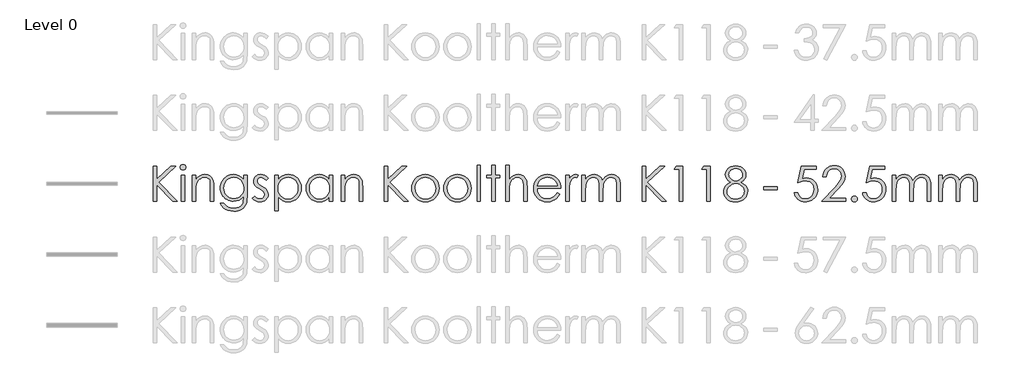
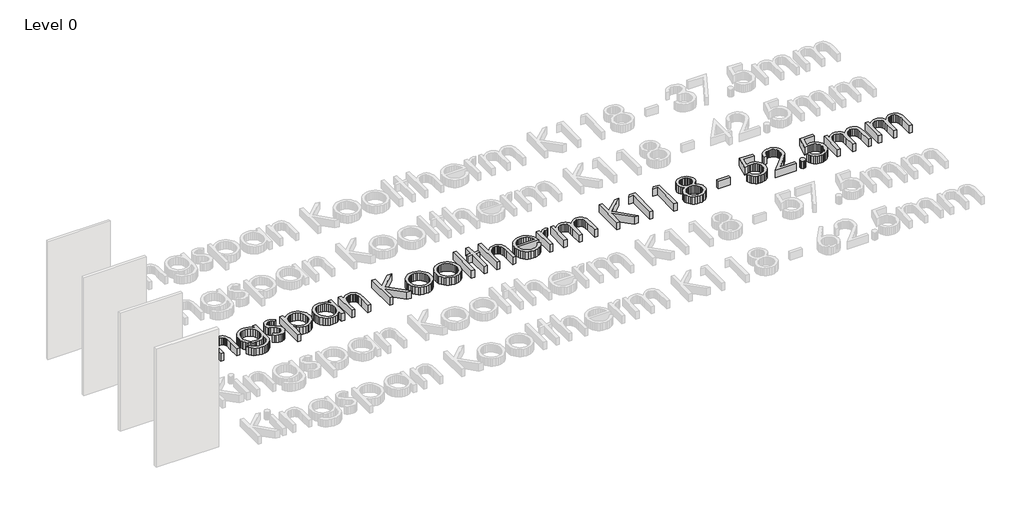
# One storey, part 6 of 8: 1 proxy.
"""IFC4 building model written with IfcOpenShell, lengths in millimetres."""

from ifc_helpers import new_model, si_unit, origin, origin_with_axes, place, context, project, spatial, polyline, outline, extrude, element, save

model = new_model("IFC4")

# Units and contexts
model_context = context("Model", 3, world=origin())
ifc_project = project(units=[si_unit("LENGTHUNIT", "METRE", prefix="MILLI")], contexts=[model_context])

# Site, building, storey
site = spatial("IfcSite", under=ifc_project)
building = spatial("IfcBuilding", under=site)
storey = spatial("IfcBuildingStorey", under=building, Name="Level 0", Elevation=0.0)

# Proxy
placement = place(None, origin())
element("IfcBuildingElementProxy", 1, Name="600mm KI_CenturyGothic", ObjectType="600mm KI_CenturyGothic", at=placement, inside=storey, context=model_context, shape_type="SweptSolid", body=[
    extrude(outline(polyline([(-3852.2663848, 3500.8965983), (-3792.944575, 3500.8965983), (-3792.944575, 3281.683973), (-3555.1938841, 3500.8965983), (-3471.6181051, 3500.8965983), (-3760.9664119, 3233.9484541), (-3441.9572002, 2907.6785001), (-3520.8984627, 2907.6785001), (-3792.944575, 3185.9039675), (-3792.944575, 2907.6785001), (-3852.2663848, 2907.6785001), (-3852.2663848, 3500.8965983)])), origin_with_axes(), (0.0, 0.0, 1.0), 150.0),
    extrude(outline(polyline([(-3348.1854852, 3530.5575033), (-3329.145347, 3527.2747208), (-3313.1176445, 3517.4263735), (-3302.226531, 3502.9821307), (-3298.5961598, 3485.911662), (-3302.226531, 3469.0729191), (-3313.1176445, 3454.7059183), (-3329.145347, 3444.857571), (-3348.1854852, 3441.5747885), (-3366.9938975, 3444.857571), (-3382.9443581, 3454.7059183), (-3393.8354717, 3469.0729191), (-3397.4658428, 3485.911662), (-3393.8354717, 3502.9821307), (-3382.9443581, 3517.4263735), (-3366.9938975, 3527.2747208), (-3348.1854852, 3530.5575033)])), origin_with_axes(), (0.0, 0.0, 1.0), 150.0),
    extrude(outline(polyline([(-3377.6919062, 3352.5920738), (-3318.3700964, 3352.5920738), (-3318.3700964, 2907.6785001), (-3377.6919062, 2907.6785001), (-3377.6919062, 3352.5920738)])), origin_with_axes(), (0.0, 0.0, 1.0), 150.0),
    extrude(outline(polyline([(-3189.8395084, 3352.5920738), (-3130.5176986, 3352.5920738), (-3130.5176986, 3273.4963274), (-3096.9946967, 3313.0055796), (-3060.0730495, 3340.696815), (-3019.7141359, 3357.0334853), (-2975.879335, 3362.4790421), (-2953.4357238, 3360.9004099), (-2932.2955704, 3356.1645135), (-2912.4588747, 3348.2713528), (-2893.9256368, 3337.2209277), (-2877.212412, 3323.4960006), (-2862.835756, 3307.5793333), (-2841.0921499, 3269.1707787), (-2833.6238199, 3244.7912914), (-2828.2892984, 3214.4448643), (-2824.0216812, 3135.8511905), (-2824.0216812, 2907.6785001), (-2883.343491, 2907.6785001), (-2883.343491, 3120.8662542), (-2883.343491, 3223.907002), (-2884.7290183, 3244.7043943), (-2889.8125035, 3262.7596977), (-2898.2849788, 3278.0729123), (-2910.1464442, 3290.644038), (-2924.7403432, 3300.4441091), (-2941.4101193, 3307.4441599), (-2980.977303, 3313.0442006), (-3005.3471351, 3310.8862539), (-3028.4038541, 3304.4124138), (-3050.1474602, 3293.6226803), (-3070.5779533, 3278.5170534), (-3088.6622225, 3260.2348518), (-3103.3671568, 3239.915394), (-3114.6927562, 3217.55868), (-3122.6390208, 3193.1647099), (-3128.5480292, 3146.0857475), (-3130.5176986, 3071.5858965), (-3130.5176986, 2907.6785001), (-3189.8395084, 2907.6785001), (-3189.8395084, 3352.5920738)])), origin_with_axes(), (0.0, 0.0, 1.0), 150.0),
    extrude(outline(polyline([(-2319.7862977, 3352.5920738), (-2260.4644879, 3352.5920738), (-2260.4644879, 3001.604699), (-2264.5196897, 2921.3503235), (-2269.588692, 2890.5500999), (-2276.6852953, 2865.9678526), (-2289.9371156, 2837.3545415), (-2307.2924139, 2812.2267729), (-2328.7511904, 2790.5845469), (-2354.3134448, 2772.4278634), (-2383.3226209, 2758.0656902), (-2415.122162, 2747.8069951), (-2449.7120682, 2741.651778), (-2487.0923395, 2739.6000389), (-2541.0458345, 2743.6166198), (-2589.206184, 2755.6663624), (-2630.260275, 2774.4940853), (-2662.8949946, 2798.8446068), (-2690.2000204, 2832.1938144), (-2715.2650299, 2878.0175952), (-2655.94322, 2878.0175952), (-2642.4355358, 2856.848476), (-2627.0933555, 2838.6048954), (-2609.9166791, 2823.2868532), (-2590.9055067, 2810.8943494), (-2569.7894914, 2801.3308318), (-2546.2982864, 2794.4997477), (-2492.1903075, 2789.0348805), (-2438.5071593, 2794.3645743), (-2415.083541, 2801.0266916), (-2393.93856, 2810.3536559), (-2359.6624492, 2834.3952097), (-2336.8567664, 2863.8823202), (-2329.3884364, 2882.5217658), (-2324.0539149, 2906.2302137), (-2319.7862977, 2968.8541165), (-2319.7862977, 2991.5632468), (-2354.757586, 2955.7809182), (-2396.6420279, 2929.3834852), (-2443.392712, 2913.1047464), (-2492.9627269, 2907.6785001), (-2522.4063889, 2909.5757553), (-2550.9521133, 2915.2675207), (-2578.5999001, 2924.7537964), (-2605.3497494, 2938.0345825), (-2630.1540674, 2954.5257366), (-2651.9652601, 2973.6431168), (-2670.7833277, 2995.3867228), (-2686.6082702, 3019.7565549), (-2699.1456025, 3046.0719183), (-2708.1008399, 3073.6521184), (-2713.4739824, 3102.4971553), (-2715.2650299, 3132.607029), (-2713.3967404, 3162.8955247), (-2707.7918722, 3192.1219437), (-2698.4504251, 3220.286286), (-2685.3723991, 3247.3885517), (-2668.9971079, 3272.5742517), (-2649.7638648, 3294.9888971), (-2627.67267, 3314.632488), (-2602.7235235, 3331.5050242), (-2575.9833294, 3345.056157), (-2548.5189922, 3354.7355376), (-2520.3305117, 3360.543166), (-2491.4178881, 3362.4790421), (-2444.5320306, 3357.5355579), (-2400.8903346, 3342.7051055), (-2359.6045177, 3316.1338782), (-2319.7862977, 3275.9680694), (-2319.7862977, 3352.5920738)]), holes=[polyline([(-2484.1571458, 3313.0442006), (-2529.0154023, 3307.0193293), (-2570.5908765, 3288.9447153), (-2606.2187212, 3260.2300242), (-2633.2340897, 3222.2849212), (-2650.2659375, 3178.0059792), (-2655.94322, 3130.2897708), (-2653.0080263, 3094.3770964), (-2644.2024452, 3061.7182387), (-2629.5264766, 3032.3131977), (-2608.9801206, 3006.1619734), (-2583.7606272, 2984.703197), (-2555.0652466, 2969.3754996), (-2522.8939786, 2960.1788811), (-2487.2468234, 2957.1133416), (-2451.3244937, 2960.154743), (-2419.1001219, 2969.2789472), (-2390.573708, 2984.4859541), (-2365.7452519, 3005.7757637), (-2345.6382095, 3032.0187128), (-2331.2760363, 3062.0851379), (-2322.6587323, 3095.975039), (-2319.7862977, 3133.6884162), (-2325.0773706, 3182.3894593), (-2340.9505892, 3225.6063246), (-2366.4983608, 3261.8327944), (-2400.8130926, 3289.5626508), (-2440.9982119, 3307.1738131), (-2484.1571458, 3313.0442006)])]), origin_with_axes(), (0.0, 0.0, 1.0), 150.0),
    extrude(outline(polyline([(-1904.5336289, 3301.3034257), (-1940.9918246, 3263.609359), (-1962.9575012, 3285.2371022), (-1984.6721416, 3300.6854902), (-2006.1357456, 3309.954523), (-2027.3483133, 3313.0442006), (-2052.181597, 3308.3710632), (-2073.2300256, 3294.3516511), (-2087.5970264, 3274.1142629), (-2092.3860267, 3250.787197), (-2088.4466878, 3229.2366958), (-2076.628671, 3208.7675817), (-2052.0657341, 3186.599145), (-2010.2006027, 3160.877579), (-1958.3326401, 3128.0111336), (-1939.8428507, 3112.1861912), (-1926.315856, 3096.7667689), (-1909.9791857, 3064.0934284), (-1904.5336289, 3027.5579908), (-1906.9474396, 3001.4115941), (-1914.1888714, 2977.3507299), (-1926.2579245, 2955.375398), (-1943.1545989, 2935.4855985), (-1963.6719892, 2918.9944443), (-1986.6031901, 2907.2150485), (-2011.9482016, 2900.147411), (-2039.7070237, 2897.7915318), (-2077.4397114, 2901.6729393), (-2113.3958344, 2913.3171617), (-2145.4512394, 2931.7972958), (-2171.4817731, 2956.1864383), (-2135.7959969, 2996.6612148), (-2114.0041146, 2975.0334717), (-2091.5749863, 2959.5850837), (-2068.5086121, 2950.3160509), (-2044.8049918, 2947.2263733), (-2013.637869, 2952.8650349), (-1987.4914724, 2969.7810198), (-1969.7644472, 2994.3439566), (-1963.8554388, 3022.9234744), (-1967.7561567, 3046.7139919), (-1979.4583106, 3067.7237995), (-2005.0253927, 3089.4287846), (-2050.2119275, 3116.2317378), (-2099.762632, 3146.8967879), (-2117.441381, 3162.0555186), (-2130.3890611, 3177.0983864), (-2146.3781427, 3209.2310334), (-2151.7078365, 3245.689229), (-2149.5305794, 3269.7356104), (-2142.9988078, 3291.6674937), (-2132.1125219, 3311.4848789), (-2116.8717217, 3329.187766), (-2098.309518, 3343.7526993), (-2077.4590218, 3354.1562231), (-2054.3202332, 3360.3983373), (-2028.8931521, 3362.4790421), (-1997.9481, 3358.6555661), (-1966.9064954, 3347.185138), (-1935.7683384, 3328.0677579), (-1904.5336289, 3301.3034257)])), origin_with_axes(), (0.0, 0.0, 1.0), 150.0),
    extrude(outline(polyline([(-1795.7769776, 3352.5920738), (-1736.4551678, 3352.5920738), (-1736.4551678, 3271.4880369), (-1700.9238754, 3311.7310876), (-1660.4490989, 3340.0788795), (-1614.9922173, 3356.8790014), (-1564.5146096, 3362.4790421), (-1520.0618732, 3358.2403906), (-1478.9305402, 3345.5244363), (-1441.1206107, 3324.331179), (-1406.6320845, 3294.6606189), (-1377.9077381, 3259.0231189), (-1357.3903478, 3219.929042), (-1345.0799137, 3177.3783884), (-1340.9764356, 3131.371158), (-1345.0412927, 3084.4708176), (-1357.235864, 3041.2491246), (-1377.5601494, 3001.706079), (-1406.014149, 2965.8416808), (-1440.2130179, 2936.0697406), (-1477.7719111, 2914.8040691), (-1518.6908288, 2902.0446661), (-1562.9697708, 2897.7915318), (-1612.6170277, 2903.256399), (-1658.0545988, 2919.6510008), (-1699.3211052, 2946.8980951), (-1736.4551678, 2984.92044), (-1736.4551678, 2749.4870072), (-1795.7769776, 2749.4870072), (-1795.7769776, 3352.5920738)]), holes=[polyline([(-1568.5311905, 3313.0442006), (-1602.5852307, 3309.7469353), (-1633.8392507, 3299.8551393), (-1662.2932503, 3283.3688128), (-1687.9472295, 3260.2879556), (-1709.1694525, 3232.3022353), (-1724.3281832, 3201.1013192), (-1733.4234216, 3166.6852074), (-1736.4551678, 3129.0538998), (-1731.048232, 3080.1983728), (-1714.8274246, 3036.5180558), (-1688.5265441, 2999.6736505), (-1652.8793888, 2971.3258586), (-1611.4390881, 2953.2512446), (-1567.7587711, 2947.2263733), (-1525.0632888, 2953.2898656), (-1485.0326535, 2971.4803424), (-1450.2544701, 3000.5812433), (-1423.3163435, 3039.3760076), (-1406.05277, 3084.0411593), (-1400.2982454, 3130.7532225), (-1405.9948385, 3177.6970114), (-1423.0846177, 3222.1304373), (-1449.8103289, 3260.4810605), (-1484.414718, 3289.1764411), (-1524.7157001, 3307.0772607), (-1568.5311905, 3313.0442006)])]), origin_with_axes(), (0.0, 0.0, 1.0), 150.0),
    extrude(outline(polyline([(-807.0801472, 3352.5920738), (-807.0801472, 2907.6785001), (-866.401957, 2907.6785001), (-866.401957, 2983.5300851), (-903.4780882, 2945.6815345), (-944.8797679, 2918.9558233), (-990.4525125, 2903.0826047), (-1040.0418379, 2897.7915318), (-1084.3159523, 2902.0446661), (-1125.2203871, 2914.8040691), (-1162.7551422, 2936.0697406), (-1196.9202178, 2965.8416808), (-1225.340424, 3001.706079), (-1245.6405713, 3041.2491246), (-1257.8206597, 3084.4708176), (-1261.8806892, 3131.371158), (-1257.7820388, 3177.3783884), (-1245.4860875, 3219.929042), (-1224.9928353, 3259.0231189), (-1196.3022822, 3294.6606189), (-1161.8475494, 3324.331179), (-1124.061758, 3345.5244363), (-1082.9449079, 3358.2403906), (-1038.4969991, 3362.4790421), (-987.7490446, 3356.8790014), (-942.0990581, 3340.0788795), (-921.2051134, 3327.3918909), (-901.6242816, 3311.7310876), (-866.401957, 3271.4880369), (-866.401957, 3352.5920738), (-807.0801472, 3352.5920738)]), holes=[polyline([(-1034.3259343, 3313.0442006), (-1078.1414247, 3307.0772607), (-1118.4424068, 3289.1764411), (-1153.0467959, 3260.4810605), (-1179.7725071, 3222.1304373), (-1196.8622863, 3177.6970114), (-1202.5588794, 3130.7532225), (-1196.8043548, 3084.0411593), (-1179.5407813, 3039.3760076), (-1152.6026548, 3000.5812433), (-1117.8244713, 2971.4803424), (-1077.6779731, 2953.2898656), (-1034.6349021, 2947.2263733), (-991.0125165, 2953.2512446), (-949.7460102, 2971.3258586), (-914.2726493, 2999.6736505), (-888.0297002, 3036.5180558), (-871.8088928, 3080.1983728), (-866.401957, 3129.0538998), (-869.4337032, 3166.6852074), (-878.5289416, 3201.1013192), (-893.6876723, 3232.3022353), (-914.9098953, 3260.2879556), (-940.5638746, 3283.3688128), (-969.0178742, 3299.8551393), (-1000.2718941, 3309.7469353), (-1034.3259343, 3313.0442006)])]), origin_with_axes(), (0.0, 0.0, 1.0), 150.0),
    extrude(outline(polyline([(-668.662591, 3352.5920738), (-609.3407811, 3352.5920738), (-609.3407811, 3273.4963274), (-575.8177792, 3313.0055796), (-538.896132, 3340.696815), (-498.5372184, 3357.0334853), (-454.7024175, 3362.4790421), (-432.2588064, 3360.9004099), (-411.1186529, 3356.1645135), (-391.2819572, 3348.2713528), (-372.7487193, 3337.2209277), (-356.0354946, 3323.4960006), (-341.6588385, 3307.5793333), (-319.9152324, 3269.1707787), (-312.4469024, 3244.7912914), (-307.1123809, 3214.4448643), (-302.8447637, 3135.8511905), (-302.8447637, 2907.6785001), (-362.1665735, 2907.6785001), (-362.1665735, 3120.8662542), (-362.1665735, 3223.907002), (-363.5521008, 3244.7043943), (-368.635586, 3262.7596977), (-377.1080613, 3278.0729123), (-388.9695267, 3290.644038), (-403.5634257, 3300.4441091), (-420.2332018, 3307.4441599), (-459.8003855, 3313.0442006), (-484.1702176, 3310.8862539), (-507.2269366, 3304.4124138), (-528.9705427, 3293.6226803), (-549.4010358, 3278.5170534), (-567.485305, 3260.2348518), (-582.1902393, 3239.915394), (-593.5158387, 3217.55868), (-601.4621033, 3193.1647099), (-607.3711117, 3146.0857475), (-609.3407811, 3071.5858965), (-609.3407811, 2907.6785001), (-668.662591, 2907.6785001), (-668.662591, 3352.5920738)])), origin_with_axes(), (0.0, 0.0, 1.0), 150.0),
    extrude(outline(polyline([(62.9730635, 3500.8965983), (122.2948734, 3500.8965983), (122.2948734, 3281.683973), (360.0455643, 3500.8965983), (443.6213432, 3500.8965983), (154.2730365, 3233.9484541), (473.2822481, 2907.6785001), (394.3409856, 2907.6785001), (122.2948734, 3185.9039675), (122.2948734, 2907.6785001), (62.9730635, 2907.6785001), (62.9730635, 3500.8965983)])), origin_with_axes(), (0.0, 0.0, 1.0), 150.0),
    extrude(outline(polyline([(760.1588128, 3362.4790421), (809.4681362, 3357.8541809), (854.3553585, 3343.9795975), (894.8204798, 3320.8552917), (930.8635, 3288.4812637), (957.7630055, 3253.2492839), (976.9769381, 3214.908316), (988.5052976, 3173.45836), (992.3480841, 3128.8994159), (988.283227, 3084.0846079), (976.0886558, 3042.1760279), (955.7643703, 3003.1736759), (927.3103707, 2967.0775519), (892.4742558, 2936.7649181), (853.0036246, 2915.1130368), (808.8984769, 2902.1219081), (760.1588128, 2897.7915318), (711.2839754, 2902.1219081), (667.0822753, 2915.1130368), (627.5537126, 2936.7649181), (592.6982872, 2967.0775519), (564.2442876, 3003.1736759), (543.9200022, 3042.1760279), (531.7254309, 3084.0846079), (527.6605738, 3128.8994159), (531.5033603, 3173.2652551), (543.0317198, 3214.5993482), (562.2456524, 3252.9016951), (589.145158, 3288.1722959), (625.2074886, 3320.6814974), (665.7305413, 3343.9023555), (710.7143161, 3357.8348705), (760.1588128, 3362.4790421)]), holes=[polyline([(760.004329, 3313.0442006), (725.7282181, 3309.6696933), (693.9624704, 3299.5461716), (664.7070856, 3282.6736353), (637.962064, 3259.0520846), (615.6584538, 3230.6415336), (599.7273037, 3199.4019965), (590.1686137, 3165.3334734), (586.9823836, 3128.4359643), (592.7948396, 3080.7004454), (610.2322075, 3036.3635719), (637.5758543, 2998.5729529), (673.1071466, 2970.4761972), (714.6439998, 2953.0388293), (760.004329, 2947.2263733), (805.3646581, 2953.0388293), (846.9015113, 2970.4761972), (882.4328037, 2998.5729529), (909.7764504, 3036.3635719), (927.2138183, 3080.7004454), (933.0262743, 3128.4359643), (929.8255614, 3165.3334734), (920.2234227, 3199.4019965), (904.2198583, 3230.6415336), (881.8148681, 3259.0520846), (854.9974321, 3282.6736353), (825.7565303, 3299.5461716), (794.0921625, 3309.6696933), (760.004329, 3313.0442006)])]), origin_with_axes(), (0.0, 0.0, 1.0), 150.0),
    extrude(outline(polyline([(1303.9420695, 3362.4790421), (1353.2513929, 3357.8541809), (1398.1386152, 3343.9795975), (1438.6037365, 3320.8552917), (1474.6467567, 3288.4812637), (1501.5462622, 3253.2492839), (1520.7601948, 3214.908316), (1532.2885543, 3173.45836), (1536.1313408, 3128.8994159), (1532.0664837, 3084.0846079), (1519.8719125, 3042.1760279), (1499.547627, 3003.1736759), (1471.0936274, 2967.0775519), (1436.2575126, 2936.7649181), (1396.7868813, 2915.1130368), (1352.6817336, 2902.1219081), (1303.9420695, 2897.7915318), (1255.0672321, 2902.1219081), (1210.865532, 2915.1130368), (1171.3369693, 2936.7649181), (1136.4815439, 2967.0775519), (1108.0275443, 3003.1736759), (1087.7032589, 3042.1760279), (1075.5086876, 3084.0846079), (1071.4438305, 3128.8994159), (1075.286617, 3173.2652551), (1086.8149766, 3214.5993482), (1106.0289091, 3252.9016951), (1132.9284147, 3288.1722959), (1168.9907453, 3320.6814974), (1209.5137981, 3343.9023555), (1254.4975728, 3357.8348705), (1303.9420695, 3362.4790421)]), holes=[polyline([(1303.7875857, 3313.0442006), (1269.5114748, 3309.6696933), (1237.7457271, 3299.5461716), (1208.4903423, 3282.6736353), (1181.7453207, 3259.0520846), (1159.4417105, 3230.6415336), (1143.5105604, 3199.4019965), (1133.9518704, 3165.3334734), (1130.7656404, 3128.4359643), (1136.5780963, 3080.7004454), (1154.0154643, 3036.3635719), (1181.359111, 2998.5729529), (1216.8904033, 2970.4761972), (1258.4272565, 2953.0388293), (1303.7875857, 2947.2263733), (1349.1479149, 2953.0388293), (1390.684768, 2970.4761972), (1426.2160604, 2998.5729529), (1453.5597071, 3036.3635719), (1470.997075, 3080.7004454), (1476.809531, 3128.4359643), (1473.6088181, 3165.3334734), (1464.0066795, 3199.4019965), (1448.003115, 3230.6415336), (1425.5981249, 3259.0520846), (1398.7806889, 3282.6736353), (1369.539787, 3299.5461716), (1337.8754193, 3309.6696933), (1303.7875857, 3313.0442006)])]), origin_with_axes(), (0.0, 0.0, 1.0), 150.0),
    extrude(outline(polyline([(1635.0010238, 3520.6705349), (1694.3228337, 3520.6705349), (1694.3228337, 2907.6785001), (1635.0010238, 2907.6785001), (1635.0010238, 3520.6705349)])), origin_with_axes(), (0.0, 0.0, 1.0), 150.0),
    extrude(outline(polyline([(1882.1752314, 3520.6705349), (1941.4970413, 3520.6705349), (1941.4970413, 3352.5920738), (2020.5927877, 3352.5920738), (2020.5927877, 3303.1572323), (1941.4970413, 3303.1572323), (1941.4970413, 2907.6785001), (1882.1752314, 2907.6785001), (1882.1752314, 3303.1572323), (1803.079485, 3303.1572323), (1803.079485, 3352.5920738), (1882.1752314, 3352.5920738), (1882.1752314, 3520.6705349)])), origin_with_axes(), (0.0, 0.0, 1.0), 150.0),
    extrude(outline(polyline([(2119.4624707, 3520.6705349), (2178.7842806, 3520.6705349), (2178.7842806, 3271.9514886), (2212.5583188, 3311.6538456), (2249.6151394, 3339.9243956), (2289.9161216, 3356.8403805), (2333.4226442, 3362.4790421), (2355.8662553, 3360.9004099), (2377.0064088, 3356.1645135), (2396.8431044, 3348.2713528), (2415.3763424, 3337.2209277), (2432.0895671, 3323.5104834), (2446.4662232, 3307.6372648), (2468.2098293, 3269.4025045), (2475.6781593, 3245.0954316), (2481.0126808, 3214.7345216), (2485.280298, 3135.8511905), (2485.280298, 2907.6785001), (2425.9584882, 2907.6785001), (2425.9584882, 3120.8662542), (2424.5681332, 3185.247411), (2420.3970685, 3223.907002), (2406.879729, 3262.7596977), (2397.1665551, 3278.0729123), (2385.4837117, 3290.644038), (2371.840854, 3300.4441091), (2356.2476374, 3307.4441599), (2319.2101273, 3313.0442006), (2296.3416854, 3310.8862539), (2274.6994594, 3304.4124138), (2254.2834492, 3293.6226803), (2235.0936547, 3278.5170534), (2218.1052556, 3260.2348518), (2204.2934312, 3239.915394), (2193.6581816, 3217.55868), (2186.1995068, 3193.1647099), (2180.6380871, 3146.3174733), (2178.7842806, 3071.5858965), (2178.7842806, 2907.6785001), (2119.4624707, 2907.6785001), (2119.4624707, 3520.6705349)])), origin_with_axes(), (0.0, 0.0, 1.0), 150.0),
    extrude(outline(polyline([(2991.0605203, 3055.9830247), (3038.950523, 3030.8021523), (3013.3255094, 2988.9177104), (2984.0315038, 2955.9547125), (2950.952643, 2930.8703926), (2913.9730643, 2912.6219843), (2872.4941426, 2901.4991449), (2825.9172528, 2897.7915318), (2774.4258447, 2902.2232881), (2728.8627554, 2915.518557), (2689.227985, 2937.6773385), (2655.5215335, 2968.6996326), (2628.6220279, 3005.3026569), (2609.4080954, 3044.2036288), (2597.8797358, 3085.4025485), (2594.0369493, 3128.8994159), (2597.3197318, 3169.7797126), (2607.1680791, 3208.381372), (2623.5819913, 3244.7043943), (2646.5614684, 3278.7487793), (2682.7493173, 3315.3807692), (2724.5758277, 3341.5464764), (2772.0409998, 3357.2459007), (2825.1448334, 3362.4790421), (2879.7935059, 3357.1107273), (2928.6490329, 3341.0057828), (2971.7114143, 3314.1642087), (3008.9806503, 3276.5860049), (3030.4539096, 3244.414737), (3045.9022976, 3208.458614), (3055.3258143, 3168.7176359), (3058.7244596, 3125.1918028), (2653.3587591, 3125.1918028), (2657.095338, 3087.9370497), (2666.6057518, 3054.1871496), (2681.8900007, 3023.9421025), (2702.9480845, 2997.2019084), (2728.3124066, 2975.3376118), (2756.5153699, 2959.7202571), (2787.5569744, 2950.3498443), (2821.4372203, 2947.2263733), (2854.9602222, 2950.238809), (2887.5563208, 2959.2761159), (2917.2944677, 2973.3148385), (2942.2436143, 2991.331521), (2965.725164, 3017.4972281), (2991.0605203, 3055.9830247)]), holes=[polyline([(2999.4026498, 3174.6266443), (2984.9777175, 3217.1483322), (2965.1844704, 3250.1692615), (2939.0766947, 3275.6977226), (2905.7081767, 3295.742006), (2867.7630738, 3308.7186519), (2827.9255433, 3313.0442006), (2795.503239, 3310.3310774), (2765.4368139, 3302.191708), (2737.726268, 3288.6260923), (2712.3716012, 3269.6342304), (2695.8321708, 3251.820308), (2681.4362043, 3230.0477362), (2669.1837016, 3204.316515), (2659.0746627, 3174.6266443), (2999.4026498, 3174.6266443)])]), origin_with_axes(), (0.0, 0.0, 1.0), 150.0),
    extrude(outline(polyline([(3137.820206, 3352.5920738), (3197.1420159, 3352.5920738), (3197.1420159, 3288.1722959), (3222.6897875, 3321.2125357), (3249.589293, 3344.3271862), (3277.7632906, 3357.9410781), (3307.1345382, 3362.4790421), (3330.4616041, 3358.694187), (3355.3335087, 3347.3396219), (3325.8270877, 3305.3200066), (3297.2475699, 3313.0442006), (3270.8308265, 3307.0965712), (3245.3409863, 3289.2536831), (3223.2884125, 3258.8976007), (3207.183468, 3215.4103886), (3199.6523789, 3157.2858288), (3197.1420159, 3059.8451217), (3197.1420159, 2907.6785001), (3137.820206, 2907.6785001), (3137.820206, 3352.5920738)])), origin_with_axes(), (0.0, 0.0, 1.0), 150.0),
    extrude(outline(polyline([(3414.6553185, 3352.5920738), (3473.9771284, 3352.5920738), (3473.9771284, 3276.4315211), (3503.5607913, 3312.9283377), (3533.9168737, 3338.0705891), (3577.3268439, 3356.3769288), (3622.8995884, 3362.4790421), (3653.7384329, 3359.331433), (3682.9165757, 3349.8886059), (3708.6767627, 3335.2126373), (3729.2617397, 3316.365604), (3746.0425511, 3290.9336953), (3760.3902414, 3256.5031006), (3775.16759, 3280.9018983), (3791.6925376, 3302.191708), (3809.965084, 3320.3725296), (3829.9852293, 3335.4443631), (3851.2798666, 3347.2720352), (3873.375889, 3355.7203723), (3896.2732965, 3360.7893747), (3919.9720892, 3362.4790421), (3962.3006723, 3356.6665861), (3981.4952943, 3349.4010161), (3999.3768034, 3339.2292182), (4015.4914031, 3326.46016), (4029.385297, 3311.4028093), (4050.5109676, 3274.4232306), (4057.8103309, 3251.0478886), (4063.0241619, 3222.4780261), (4067.1952266, 3149.7547397), (4067.1952266, 2907.6785001), (4007.8734168, 2907.6785001), (4007.8734168, 3153.3078689), (4005.4209852, 3214.4255538), (3998.0636904, 3252.8727294), (3984.7587663, 3277.3391139), (3964.4634466, 3296.5144254), (3938.3942919, 3308.9117568), (3907.7678627, 3313.0442006), (3888.1194443, 3311.4945341), (3869.3399976, 3306.8455349), (3834.3880198, 3288.2495379), (3805.6540182, 3259.3031209), (3785.8800816, 3222.0531954), (3779.1889985, 3197.8957787), (3774.4096535, 3166.8252084), (3770.5861775, 3083.9446069), (3770.5861775, 2907.6785001), (3711.2643677, 2907.6785001), (3711.2643677, 3138.0139648), (3708.850557, 3206.469634), (3701.6091252, 3248.7016647), (3688.3621325, 3274.9446137), (3667.9316394, 3295.4330383), (3641.6114484, 3308.64141), (3610.6953619, 3313.0442006), (3573.7544042, 3307.0000188), (3539.2465676, 3288.8674734), (3510.2808401, 3260.500371), (3489.9662099, 3223.7525181), (3477.9743988, 3171.9231764), (3473.9771284, 3098.3116077), (3473.9771284, 2907.6785001), (3414.6553185, 2907.6785001), (3414.6553185, 3352.5920738)])), origin_with_axes(), (0.0, 0.0, 1.0), 150.0),
    extrude(outline(polyline([(4433.0130538, 3500.8965983), (4492.3348637, 3500.8965983), (4492.3348637, 3281.683973), (4730.0855546, 3500.8965983), (4813.6613335, 3500.8965983), (4524.3130268, 3233.9484541), (4843.3222385, 2907.6785001), (4764.3809759, 2907.6785001), (4492.3348637, 3185.9039675), (4492.3348637, 2907.6785001), (4433.0130538, 2907.6785001), (4433.0130538, 3500.8965983)])), origin_with_axes(), (0.0, 0.0, 1.0), 150.0),
    extrude(outline(polyline([(5010.6282802, 3500.8965983), (5125.1008351, 3500.8965983), (5125.1008351, 2907.6785001), (5065.7790253, 2907.6785001), (5065.7790253, 3451.4617568), (4976.7963106, 3451.4617568), (5010.6282802, 3500.8965983)])), origin_with_axes(), (0.0, 0.0, 1.0), 150.0),
    extrude(outline(polyline([(5475.3157905, 3500.8965983), (5589.7883454, 3500.8965983), (5589.7883454, 2907.6785001), (5530.4665356, 2907.6785001), (5530.4665356, 3451.4617568), (5441.4838208, 3451.4617568), (5475.3157905, 3500.8965983)])), origin_with_axes(), (0.0, 0.0, 1.0), 150.0),
    extrude(outline(polyline([(6107.7727942, 3231.7856798), (6159.8724826, 3200.3868313), (6179.6946955, 3183.1522234), (6195.365154, 3164.8941599), (6207.2604128, 3145.4774673), (6215.7570261, 3124.7669721), (6220.8549942, 3102.7626745), (6222.5543169, 3079.4645744), (6219.734986, 3046.7815786), (6211.2769936, 3016.0875627), (6197.1803396, 2987.3825268), (6177.445024, 2960.6664709), (6146.7510081, 2933.158685), (6110.1286734, 2913.5102666), (6067.5780197, 2901.7212155), (6019.0990472, 2897.7915318), (5972.4352603, 2901.243281), (5931.7770342, 2911.5985286), (5897.1243689, 2928.8572745), (5868.4772645, 2953.0195188), (5846.0384809, 2981.3335174), (5830.0107784, 3011.0475261), (5820.3941569, 3042.161545), (5817.1886164, 3074.6755741), (5818.9024219, 3098.4033325), (5824.0438386, 3120.9241856), (5832.6128663, 3142.2381334), (5844.609505, 3162.3451759), (5860.5068618, 3181.3128997), (5880.7780434, 3199.2088917), (5905.4230498, 3216.0331517), (5934.4418811, 3231.7856798), (5896.0719475, 3256.7348264), (5868.7089903, 3287.0909088), (5852.3143886, 3321.3477091), (5846.8495213, 3357.9990096), (5852.6426668, 3395.7123867), (5870.0221033, 3432.5374816), (5897.6360968, 3465.0563382), (5934.1329134, 3489.8510009), (5976.7318432, 3505.5504252), (6022.6521765, 3510.7835666), (6067.3945701, 3505.5118042), (6108.6224555, 3489.6965171), (6143.8254696, 3464.8246124), (6170.4932494, 3432.3829977), (6187.2933713, 3395.2489351), (6192.8934119, 3356.2996869), (6187.5830286, 3318.7601041), (6171.6518785, 3285.54607), (6145.0613407, 3256.5803425), (6107.7727942, 3231.7856798)]), holes=[polyline([(6022.9611442, 3204.2875492), (5993.0926516, 3201.7771862), (5965.7441773, 3194.246097), (5940.9157212, 3181.6942818), (5918.6072834, 3164.1217405), (5900.1899084, 3143.2181405), (5887.0346405, 3120.6731493), (5879.1414798, 3096.4867669), (5876.5104262, 3070.6589932), (5881.0097692, 3038.5456567), (5894.5077982, 3008.3247478), (5916.0776099, 2982.3907665), (5944.7923011, 2963.1382129), (5979.6670369, 2951.2043332), (6019.7169827, 2947.2263733), (6050.9372093, 2949.6450116), (6078.7877563, 2956.9009263), (6103.2686236, 2968.9941175), (6124.3798113, 2985.9245852), (6141.3778657, 3006.0895591), (6153.5193331, 3027.886269), (6160.8042135, 3051.3147149), (6163.232507, 3076.3748968), (6160.6642125, 3100.7061079), (6152.959329, 3123.646964), (6140.1178565, 3145.1974652), (6122.139795, 3165.3576115), (6100.5313623, 3182.3894593), (6076.7987763, 3194.5550648), (6050.9420369, 3201.8544281), (6022.9611442, 3204.2875492)]), polyline([(6019.7169827, 3461.3487251), (5996.2112949, 3459.4900909), (5974.8201052, 3453.9141884), (5955.5434136, 3444.6210175), (5938.3812201, 3431.6105783), (5924.2893937, 3416.0221893), (5914.2238034, 3398.9951692), (5908.1844492, 3380.5295179), (5906.1713311, 3360.6252355), (5908.3389331, 3340.7161255), (5914.8417389, 3321.7725398), (5925.6797486, 3303.7944783), (5940.8529621, 3286.781941), (5958.9130932, 3272.3183878), (5978.4118554, 3261.9872783), (5999.3492487, 3255.7886126), (6021.7252732, 3253.7223907), (6050.4399643, 3257.4686248), (6077.5711957, 3268.7073271), (6101.0334349, 3286.4536628), (6118.7411497, 3309.7227972), (6129.863989, 3335.7726414), (6133.5716021, 3361.8611066), (6131.7467613, 3380.0322729), (6126.2722388, 3397.4696408), (6117.1480347, 3414.1732103), (6104.3741488, 3430.1429814), (6088.134031, 3443.7954943), (6068.6111307, 3453.5472892), (6045.8054479, 3459.3983661), (6019.7169827, 3461.3487251)])]), origin_with_axes(), (0.0, 0.0, 1.0), 150.0),
    extrude(outline(polyline([(6499.3894294, 3154.8527077), (6726.7897004, 3154.8527077), (6726.7897004, 3105.4178662), (6499.3894294, 3105.4178662), (6499.3894294, 3154.8527077)])), origin_with_axes(), (0.0, 0.0, 1.0), 150.0),
    extrude(outline(polyline([(7389.2165767, 3500.8965983), (7389.2165767, 3451.4617568), (7181.8992101, 3451.4617568), (7147.4493049, 3290.4895541), (7185.0275087, 3299.9903127), (7218.6663735, 3303.1572323), (7258.2528677, 3299.7344488), (7294.2089907, 3289.4660984), (7326.5347425, 3272.3521811), (7355.2301232, 3248.3926969), (7378.7502939, 3219.0842083), (7395.5504158, 3185.923278), (7405.6304889, 3148.909906), (7408.9905133, 3108.0440921), (7407.2670525, 3079.0783647), (7402.0966702, 3051.3485083), (7393.4793663, 3024.8545229), (7381.4151408, 2999.5964086), (7366.410894, 2976.3948609), (7348.973526, 2956.0705754), (7329.103037, 2938.6235523), (7306.7994269, 2924.0537914), (7282.3668358, 2912.5640528), (7256.1094038, 2904.3570967), (7228.0271311, 2899.432923), (7198.1200175, 2897.7915318), (7162.7866576, 2900.5481035), (7130.3209047, 2908.8178187), (7100.7227589, 2922.6006774), (7073.9922201, 2941.8966795), (7051.2396412, 2965.5665064), (7033.575375, 2992.4708396), (7020.9994217, 3022.609679), (7013.5117812, 3055.9830247), (7072.833591, 3055.9830247), (7082.4115915, 3023.2517526), (7096.9330762, 2997.3563923), (7116.7649443, 2977.0417621), (7142.2740949, 2961.0526806), (7171.2977538, 2950.6829501), (7201.6731467, 2947.2263733), (7230.9623248, 2950.1519118), (7258.1176943, 2958.9285272), (7283.1392552, 2973.5562196), (7306.0270075, 2994.0349889), (7325.1202495, 3018.9068935), (7338.7582795, 3046.7139919), (7346.9410975, 3077.456284), (7349.6687035, 3111.1337697), (7347.2066167, 3141.3208854), (7339.8203562, 3168.5438415), (7327.509922, 3192.8026383), (7310.2753142, 3214.0972756), (7288.9179178, 3231.4332635), (7264.239118, 3243.816112), (7236.2389148, 3251.245821), (7204.9173082, 3253.7223907), (7176.2122723, 3251.8685842), (7144.6299741, 3246.3071645), (7072.833591, 3224.0614858), (7132.1554008, 3500.8965983), (7389.2165767, 3500.8965983)])), origin_with_axes(), (0.0, 0.0, 1.0), 150.0),
    extrude(outline(polyline([(7557.2950379, 3322.9311689), (7497.9732281, 3322.9311689), (7502.4580882, 3362.1893848), (7513.5954104, 3397.7786086), (7531.3851947, 3429.6988403), (7555.827441, 3457.9500798), (7585.2228268, 3481.0647303), (7617.8720292, 3497.5751949), (7653.7750484, 3507.4814737), (7692.9318843, 3510.7835666), (7731.403198, 3507.4863013), (7766.0220699, 3497.5945054), (7796.7885001, 3481.1081789), (7823.7024885, 3458.0273217), (7845.5667851, 3430.466432), (7861.1841398, 3400.540008), (7870.5545527, 3368.2480495), (7873.6780236, 3333.5905566), (7867.5952208, 3284.7929611), (7849.3468125, 3239.1236641), (7813.5644839, 3187.236391), (7754.8799201, 3119.784867), (7602.095363, 2957.1133416), (7883.5649919, 2957.1133416), (7883.5649919, 2907.6785001), (7478.1992914, 2907.6785001), (7704.2092075, 3148.3643848), (7760.9434124, 3213.8848603), (7793.6553739, 3259.9789879), (7809.1810038, 3297.3447763), (7814.3562138, 3336.6802342), (7812.1065423, 3361.2866196), (7805.3575278, 3384.1260957), (7794.1091703, 3405.1986625), (7778.3614698, 3424.5043198), (7759.3502973, 3440.6237471), (7738.311524, 3452.1376238), (7715.2451497, 3459.0459498), (7690.1511745, 3461.3487251), (7663.8165006, 3459.0749155), (7639.8087401, 3452.2534867), (7618.1278932, 3440.8844387), (7598.7739596, 3424.9677714), (7582.5386694, 3404.9476262), (7570.2137523, 3381.268144), (7561.7992085, 3353.9293249), (7557.2950379, 3322.9311689)])), origin_with_axes(), (0.0, 0.0, 1.0), 150.0),
    extrude(outline(polyline([(8031.8695165, 2996.6612148), (8050.8903442, 2993.0694646), (8066.8601152, 2982.294214), (8077.6932973, 2966.3437534), (8081.304358, 2947.2263733), (8077.6932973, 2928.3020981), (8066.8601152, 2912.3130165), (8050.8903442, 2901.421903), (8031.8695165, 2897.7915318), (8012.8486888, 2901.421903), (7996.8789177, 2912.3130165), (7986.0457356, 2928.3020981), (7982.4346749, 2947.2263733), (7986.0457356, 2966.3437534), (7996.8789177, 2982.294214), (8012.8486888, 2993.0694646), (8031.8695165, 2996.6612148)])), origin_with_axes(), (0.0, 0.0, 1.0), 150.0),
    extrude(outline(polyline([(8545.9918683, 3500.8965983), (8545.9918683, 3451.4617568), (8338.6745016, 3451.4617568), (8304.2245965, 3290.4895541), (8341.8028002, 3299.9903127), (8375.441665, 3303.1572323), (8415.0281592, 3299.7344488), (8450.9842822, 3289.4660984), (8483.3100341, 3272.3521811), (8512.0054147, 3248.3926969), (8535.5255854, 3219.0842083), (8552.3257073, 3185.923278), (8562.4057805, 3148.909906), (8565.7658049, 3108.0440921), (8564.0423441, 3079.0783647), (8558.8719617, 3051.3485083), (8550.2546578, 3024.8545229), (8538.1904323, 2999.5964086), (8523.1861855, 2976.3948609), (8505.7488176, 2956.0705754), (8485.8783286, 2938.6235523), (8463.5747184, 2924.0537914), (8439.1421273, 2912.5640528), (8412.8846954, 2904.3570967), (8384.8024226, 2899.432923), (8354.895309, 2897.7915318), (8319.5619491, 2900.5481035), (8287.0961963, 2908.8178187), (8257.4980505, 2922.6006774), (8230.7675116, 2941.8966795), (8208.0149327, 2965.5665064), (8190.3506666, 2992.4708396), (8177.7747133, 3022.609679), (8170.2870727, 3055.9830247), (8229.6088825, 3055.9830247), (8239.1868831, 3023.2517526), (8253.7083678, 2997.3563923), (8273.5402358, 2977.0417621), (8299.0493865, 2961.0526806), (8328.0730454, 2950.6829501), (8358.4484383, 2947.2263733), (8387.7376163, 2950.1519118), (8414.8929858, 2958.9285272), (8439.9145467, 2973.5562196), (8462.802299, 2994.0349889), (8481.895541, 3018.9068935), (8495.533571, 3046.7139919), (8503.716389, 3077.456284), (8506.4439951, 3111.1337697), (8503.9819082, 3141.3208854), (8496.5956477, 3168.5438415), (8484.2852135, 3192.8026383), (8467.0506057, 3214.0972756), (8445.6932093, 3231.4332635), (8421.0144096, 3243.816112), (8393.0142063, 3251.245821), (8361.6925997, 3253.7223907), (8332.9875638, 3251.8685842), (8301.4052657, 3246.3071645), (8229.6088825, 3224.0614858), (8288.9306924, 3500.8965983), (8545.9918683, 3500.8965983)])), origin_with_axes(), (0.0, 0.0, 1.0), 150.0),
    extrude(outline(polyline([(8674.5224562, 3352.5920738), (8733.844266, 3352.5920738), (8733.844266, 3276.4315211), (8763.427929, 3312.9283377), (8793.7840114, 3338.0705891), (8837.1939816, 3356.3769288), (8882.7667261, 3362.4790421), (8913.6055706, 3359.331433), (8942.7837134, 3349.8886059), (8968.5439003, 3335.2126373), (8989.1288773, 3316.365604), (9005.9096888, 3290.9336953), (9020.2573791, 3256.5031006), (9035.0347277, 3280.9018983), (9051.5596752, 3302.191708), (9069.8322216, 3320.3725296), (9089.8523669, 3335.4443631), (9111.1470042, 3347.2720352), (9133.2430266, 3355.7203723), (9156.1404342, 3360.7893747), (9179.8392269, 3362.4790421), (9222.1678099, 3356.6665861), (9241.362432, 3349.4010161), (9259.2439411, 3339.2292182), (9275.3585408, 3326.46016), (9289.2524347, 3311.4028093), (9310.3781053, 3274.4232306), (9317.6774686, 3251.0478886), (9322.8912995, 3222.4780261), (9327.0623643, 3149.7547397), (9327.0623643, 2907.6785001), (9267.7405545, 2907.6785001), (9267.7405545, 3153.3078689), (9265.2881229, 3214.4255538), (9257.9308281, 3252.8727294), (9244.6259039, 3277.3391139), (9224.3305842, 3296.5144254), (9198.2614295, 3308.9117568), (9167.6350004, 3313.0442006), (9147.9865819, 3311.4945341), (9129.2071353, 3306.8455349), (9094.2551575, 3288.2495379), (9065.5211559, 3259.3031209), (9045.7472193, 3222.0531954), (9039.0561362, 3197.8957787), (9034.2767912, 3166.8252084), (9030.4533152, 3083.9446069), (9030.4533152, 2907.6785001), (8971.1315053, 2907.6785001), (8971.1315053, 3138.0139648), (8968.7176947, 3206.469634), (8961.4762628, 3248.7016647), (8948.2292702, 3274.9446137), (8927.7987771, 3295.4330383), (8901.4785861, 3308.64141), (8870.5624996, 3313.0442006), (8833.6215419, 3307.0000188), (8799.1137052, 3288.8674734), (8770.1479778, 3260.500371), (8749.8333476, 3223.7525181), (8737.8415364, 3171.9231764), (8733.844266, 3098.3116077), (8733.844266, 2907.6785001), (8674.5224562, 2907.6785001), (8674.5224562, 3352.5920738)])), origin_with_axes(), (0.0, 0.0, 1.0), 150.0),
    extrude(outline(polyline([(9465.4799205, 3352.5920738), (9524.8017304, 3352.5920738), (9524.8017304, 3276.4315211), (9554.3853933, 3312.9283377), (9584.7414757, 3338.0705891), (9628.1514459, 3356.3769288), (9673.7241904, 3362.4790421), (9704.5630349, 3359.331433), (9733.7411777, 3349.8886059), (9759.5013647, 3335.2126373), (9780.0863416, 3316.365604), (9796.8671531, 3290.9336953), (9811.2148434, 3256.5031006), (9825.992192, 3280.9018983), (9842.5171395, 3302.191708), (9860.7896859, 3320.3725296), (9880.8098312, 3335.4443631), (9902.1044685, 3347.2720352), (9924.200491, 3355.7203723), (9947.0978985, 3360.7893747), (9970.7966912, 3362.4790421), (10013.1252742, 3356.6665861), (10032.3198963, 3349.4010161), (10050.2014054, 3339.2292182), (10066.3160051, 3326.46016), (10080.209899, 3311.4028093), (10101.3355696, 3274.4232306), (10108.6349329, 3251.0478886), (10113.8487638, 3222.4780261), (10118.0198286, 3149.7547397), (10118.0198286, 2907.6785001), (10058.6980188, 2907.6785001), (10058.6980188, 3153.3078689), (10056.2455872, 3214.4255538), (10048.8882924, 3252.8727294), (10035.5833683, 3277.3391139), (10015.2880486, 3296.5144254), (9989.2188938, 3308.9117568), (9958.5924647, 3313.0442006), (9938.9440462, 3311.4945341), (9920.1645996, 3306.8455349), (9885.2126218, 3288.2495379), (9856.4786202, 3259.3031209), (9836.7046836, 3222.0531954), (9830.0136005, 3197.8957787), (9825.2342555, 3166.8252084), (9821.4107795, 3083.9446069), (9821.4107795, 2907.6785001), (9762.0889696, 2907.6785001), (9762.0889696, 3138.0139648), (9759.675159, 3206.469634), (9752.4337272, 3248.7016647), (9739.1867345, 3274.9446137), (9718.7562414, 3295.4330383), (9692.4360504, 3308.64141), (9661.5199639, 3313.0442006), (9624.5790062, 3307.0000188), (9590.0711695, 3288.8674734), (9561.1054421, 3260.500371), (9540.7908119, 3223.7525181), (9528.7990007, 3171.9231764), (9524.8017304, 3098.3116077), (9524.8017304, 2907.6785001), (9465.4799205, 2907.6785001), (9465.4799205, 3352.5920738)])), origin_with_axes(), (0.0, 0.0, 1.0), 150.0),
])

save(model, "model.ifc")
